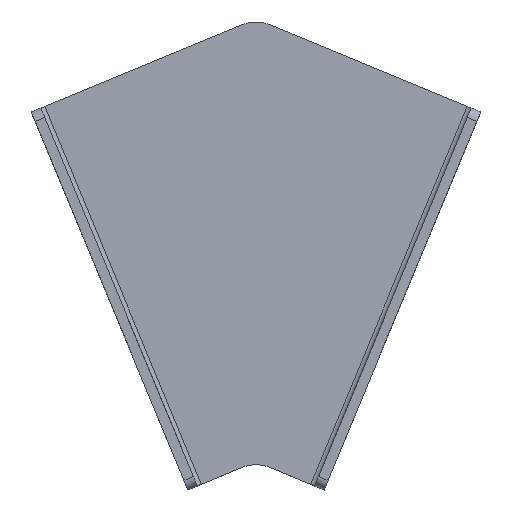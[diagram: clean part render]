
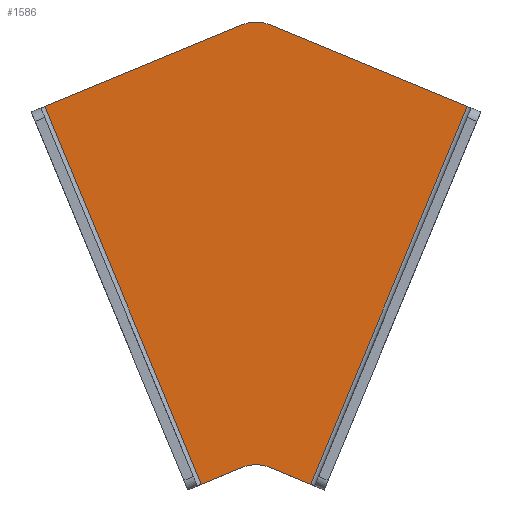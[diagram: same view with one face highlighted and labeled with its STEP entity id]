
A CAD part, top view. The second image highlights one B-rep face of the part: STEP entity #1586.
In plain terms, the highlighted planar face has unit normal (0, 0, 1).
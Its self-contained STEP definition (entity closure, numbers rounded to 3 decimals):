
#15 = AXIS2_PLACEMENT_3D ( 'NONE', #961, #161, #1103 ) ;
#26 = AXIS2_PLACEMENT_3D ( 'NONE', #74, #1406, #1145 ) ;
#45 = CARTESIAN_POINT ( 'NONE',  ( 81.949, 112.511, 3. ) ) ;
#74 = CARTESIAN_POINT ( 'NONE',  ( 0., 0., 3. ) ) ;
#98 = CARTESIAN_POINT ( 'NONE',  ( 20., -2.54, 3. ) ) ;
#161 = DIRECTION ( 'NONE',  ( 0., 0., 1. ) ) ;
#209 = PLANE ( 'NONE',  #26 ) ;
#222 = CARTESIAN_POINT ( 'NONE',  ( 16.173, 6.699, 3. ) ) ;
#226 = LINE ( 'NONE', #762, #886 ) ;
#227 = CARTESIAN_POINT ( 'NONE',  ( 40., 0., 3. ) ) ;
#237 = DIRECTION ( 'NONE',  ( -1., 0., 0. ) ) ;
#241 = CARTESIAN_POINT ( 'NONE',  ( 81.949, 112.511, 3. ) ) ;
#265 = EDGE_CURVE ( 'NONE', #1651, #1081, #542, .T. ) ;
#298 = VECTOR ( 'NONE', #1467, 1000. ) ;
#305 = VERTEX_POINT ( 'NONE', #1170 ) ;
#314 = LINE ( 'NONE', #45, #1669 ) ;
#347 = EDGE_CURVE ( 'NONE', #939, #703, #1433, .T. ) ;
#361 = CARTESIAN_POINT ( 'NONE',  ( 3.973, 1.646, 3. ) ) ;
#364 = DIRECTION ( 'NONE',  ( 0.924, -0.383, 0. ) ) ;
#388 = EDGE_CURVE ( 'NONE', #1522, #1651, #1039, .T. ) ;
#397 = ORIENTED_EDGE ( 'NONE', *, *, #464, .T. ) ;
#400 = ORIENTED_EDGE ( 'NONE', *, *, #574, .T. ) ;
#406 = CARTESIAN_POINT ( 'NONE',  ( 0., 0., 3. ) ) ;
#461 = CARTESIAN_POINT ( 'NONE',  ( 3.973, 1.646, 3. ) ) ;
#464 = EDGE_CURVE ( 'NONE', #305, #939, #1611, .T. ) ;
#486 = FACE_OUTER_BOUND ( 'NONE', #683, .T. ) ;
#512 = ORIENTED_EDGE ( 'NONE', *, *, #1672, .T. ) ;
#542 = CIRCLE ( 'NONE', #925, 10. ) ;
#545 = ORIENTED_EDGE ( 'NONE', *, *, #388, .T. ) ;
#574 = EDGE_CURVE ( 'NONE', #1489, #1215, #314, .T. ) ;
#683 = EDGE_LOOP ( 'NONE', ( #1488, #512, #545, #1417, #1474, #400, #1367, #397 ) ) ;
#703 = VERTEX_POINT ( 'NONE', #1144 ) ;
#717 = VECTOR ( 'NONE', #1424, 1000. ) ;
#721 = VECTOR ( 'NONE', #1452, 1000. ) ;
#762 = CARTESIAN_POINT ( 'NONE',  ( 85.922, 110.866, 3. ) ) ;
#850 = EDGE_CURVE ( 'NONE', #1081, #1489, #1707, .T. ) ;
#886 = VECTOR ( 'NONE', #1553, 1000. ) ;
#913 = CARTESIAN_POINT ( 'NONE',  ( 16.173, 136.586, 3. ) ) ;
#925 = AXIS2_PLACEMENT_3D ( 'NONE', #98, #1034, #237 ) ;
#939 = VERTEX_POINT ( 'NONE', #913 ) ;
#945 = CARTESIAN_POINT ( 'NONE',  ( 36.027, 1.646, 3. ) ) ;
#961 = CARTESIAN_POINT ( 'NONE',  ( 20., 127.347, 3. ) ) ;
#1034 = DIRECTION ( 'NONE',  ( 0., 0., -1. ) ) ;
#1039 = LINE ( 'NONE', #406, #298 ) ;
#1081 = VERTEX_POINT ( 'NONE', #1350 ) ;
#1083 = LINE ( 'NONE', #361, #717 ) ;
#1103 = DIRECTION ( 'NONE',  ( -1., 0., 0. ) ) ;
#1144 = CARTESIAN_POINT ( 'NONE',  ( -41.949, 112.511, 3. ) ) ;
#1145 = DIRECTION ( 'NONE',  ( -1., 0., 0. ) ) ;
#1170 = CARTESIAN_POINT ( 'NONE',  ( 23.827, 136.586, 3. ) ) ;
#1173 = EDGE_CURVE ( 'NONE', #1215, #305, #226, .T. ) ;
#1215 = VERTEX_POINT ( 'NONE', #241 ) ;
#1350 = CARTESIAN_POINT ( 'NONE',  ( 23.827, 6.699, 3. ) ) ;
#1365 = VECTOR ( 'NONE', #364, 1000. ) ;
#1367 = ORIENTED_EDGE ( 'NONE', *, *, #1173, .T. ) ;
#1406 = DIRECTION ( 'NONE',  ( 0., 0., -1. ) ) ;
#1417 = ORIENTED_EDGE ( 'NONE', *, *, #265, .T. ) ;
#1424 = DIRECTION ( 'NONE',  ( 0.383, -0.924, 0. ) ) ;
#1433 = LINE ( 'NONE', #1576, #721 ) ;
#1452 = DIRECTION ( 'NONE',  ( -0.924, -0.383, 0. ) ) ;
#1467 = DIRECTION ( 'NONE',  ( 0.924, 0.383, 0. ) ) ;
#1474 = ORIENTED_EDGE ( 'NONE', *, *, #850, .T. ) ;
#1488 = ORIENTED_EDGE ( 'NONE', *, *, #347, .T. ) ;
#1489 = VERTEX_POINT ( 'NONE', #945 ) ;
#1522 = VERTEX_POINT ( 'NONE', #461 ) ;
#1553 = DIRECTION ( 'NONE',  ( -0.924, 0.383, 0. ) ) ;
#1576 = CARTESIAN_POINT ( 'NONE',  ( -45.922, 110.866, 3. ) ) ;
#1586 = ADVANCED_FACE ( 'NONE', ( #486 ), #209, .F. ) ;
#1611 = CIRCLE ( 'NONE', #15, 10. ) ;
#1639 = DIRECTION ( 'NONE',  ( 0.383, 0.924, 0. ) ) ;
#1651 = VERTEX_POINT ( 'NONE', #222 ) ;
#1669 = VECTOR ( 'NONE', #1639, 1000. ) ;
#1672 = EDGE_CURVE ( 'NONE', #703, #1522, #1083, .T. ) ;
#1707 = LINE ( 'NONE', #227, #1365 ) ;
